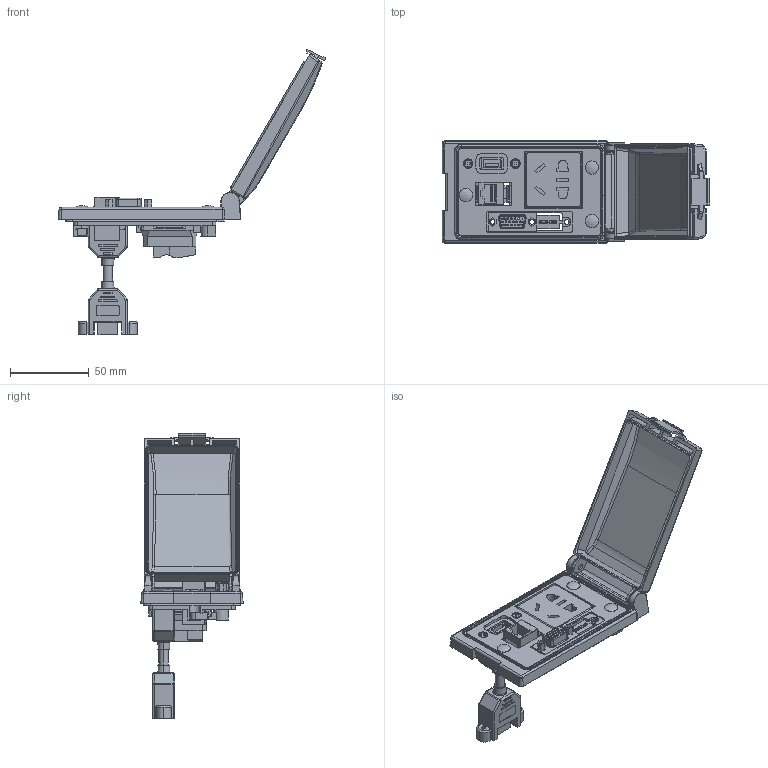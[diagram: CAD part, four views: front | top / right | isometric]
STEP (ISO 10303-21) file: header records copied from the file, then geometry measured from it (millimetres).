
FILE_DESCRIPTION (( 'STEP AP203' ), '1' );
FILE_NAME ('9145215.STEP', '2020-11-24T09:13:15', ( '' ), ( '' ), 'SwSTEP 2.0', 'SolidWorks 2016', '' );
FILE_SCHEMA (( 'CONFIG_CONTROL_DESIGN' ));
Products named in the file (1): 9145215
Bounding box: 169.88 x 65 x 181.03 mm (x, y, z)
Volume: 104817.7 mm3; surface area: 72214.2 mm2
Topology: 7 solids, 9 shells, 2507 faces, 6749 edges, 4312 vertices
Faces by surface type: plane 1412, cylinder 626, bspline 271, cone 101, torus 63, sphere 34
Entity records: 92751 total; most frequent: CARTESIAN_POINT 33553, ORIENTED_EDGE 13388, DIRECTION 10565, EDGE_CURVE 6694, VERTEX_POINT 4305, VECTOR 3917, LINE 3917, AXIS2_PLACEMENT_3D 3324
